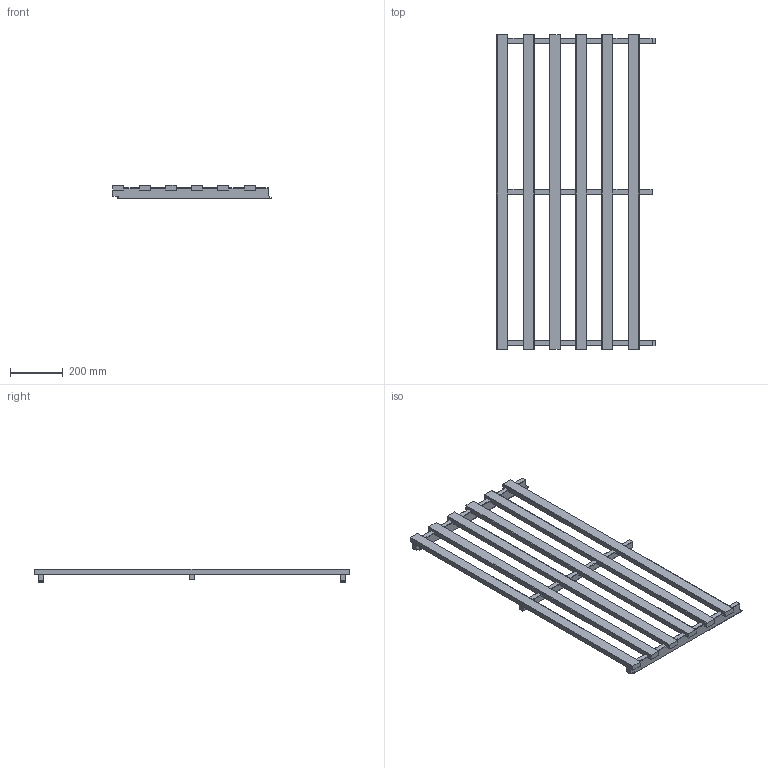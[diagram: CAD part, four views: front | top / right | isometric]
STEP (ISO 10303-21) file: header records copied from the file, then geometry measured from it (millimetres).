
FILE_DESCRIPTION (( 'STEP AP214' ), '1' );
FILE_NAME ('Lao 4.2.5.STEP', '2024-05-31T09:17:40', ( 'UTILISATEUR' ), ( '' ), 'SwSTEP 2.0', 'SolidWorks 2021', '' );
FILE_SCHEMA (( 'AUTOMOTIVE_DESIGN' ));
Length unit declared in the file: millimetre
Products named in the file (4): Contrelatte 20x42_4.2.5; Lame aboutée 20x42x1199mm_1199; Contrelatte centrale 20x28_4.2.5; Lao 4.2.5
Assembly tree (9 placements, depth 2):
  Lao 4.2.5
    Contrelatte 20x42_4.2.5  x2
    Lame aboutée 20x42x1199mm_1199  x6
    Contrelatte centrale 20x28_4.2.5
Bounding box: 603 x 1199 x 52 mm (x, y, z)
Volume: 7177379.7 mm3; surface area: 1074581.2 mm2
Topology: 9 solids, 9 shells, 222 faces, 612 edges, 408 vertices
Faces by surface type: plane 206, cylinder 16
Entity records: 4014 total; most frequent: CARTESIAN_POINT 702, ORIENTED_EDGE 672, DIRECTION 620, EDGE_CURVE 336, VECTOR 304, LINE 304, VERTEX_POINT 224, AXIS2_PLACEMENT_3D 158
